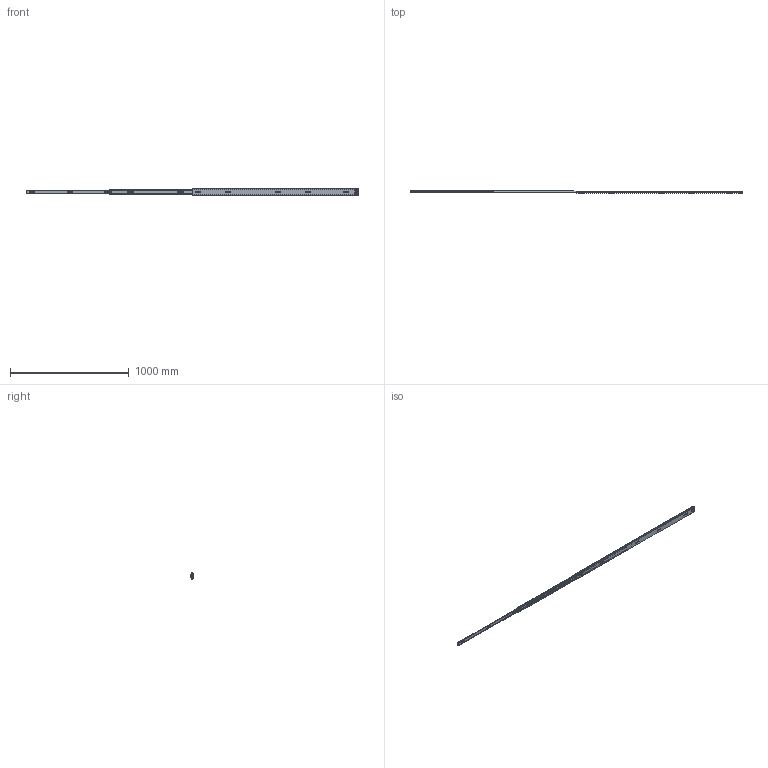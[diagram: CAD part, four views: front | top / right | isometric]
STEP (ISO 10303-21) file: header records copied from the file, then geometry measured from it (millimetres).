
FILE_DESCRIPTION((''),'2;1');
FILE_NAME('1057-02-56_ASM','2023-12-23T',('jishu015'),(''),'PRO/ENGINEER BY PARAMETRIC TECHNOLOGY CORPORATION, 2010280','PRO/ENGINEER BY PARAMETRIC TECHNOLOGY CORPORATION, 2010280','');
FILE_SCHEMA(('CONFIG_CONTROL_DESIGN'));
Products named in the file (14): KP-57-01WEIKE-122__; 1057WEIJIAO__________________; 1057DAZHUJIA-14GE11___; 1057-5-6GANZHU11; 1057DAZHUJIA-14GE11____ASM; KP-57-01ZHONGGUI-22_____; 57-ZHONGGUIDINWEIJIAN11_______; KP-57-01ZHONGGUI-22______ASM; 1057XIAOZHUJIA11; 1057XIAOZHUJIA-14GE22______ASM; KP-57-01NEIGUI-1822___; 45TIEBACHA__________________; KP-57-01NEIGUI-1822____ASM; 1057-02-56_ASM
Assembly tree (224 placements, depth 3):
  1057-02-56_ASM
    KP-57-01WEIKE-122__
    1057WEIJIAO__________________
    1057DAZHUJIA-14GE11____ASM
      1057DAZHUJIA-14GE11___
      1057-5-6GANZHU11  x104
    KP-57-01ZHONGGUI-22______ASM
      KP-57-01ZHONGGUI-22_____
      57-ZHONGGUIDINWEIJIAN11_______
    1057XIAOZHUJIA-14GE22______ASM
      1057XIAOZHUJIA11
      1057-5-6GANZHU11  x108
    KP-57-01NEIGUI-1822____ASM
      KP-57-01NEIGUI-1822___
      45TIEBACHA__________________
Bounding box: 2800 x 19 x 57.69 mm (x, y, z)
Volume: 617644.7 mm3; surface area: 725530.6 mm2
Topology: 220 solids, 222 shells, 5103 faces, 14302 edges, 8784 vertices
Faces by surface type: plane 2347, cylinder 2120, sphere 432, bspline 112, cone 86, torus 6
Entity records: 157464 total; most frequent: CARTESIAN_POINT 31704, DIRECTION 26810, ORIENTED_EDGE 26044, EDGE_CURVE 13024, AXIS2_PLACEMENT_3D 9171, VECTOR 8468, LINE 8468, VERTEX_POINT 8362
